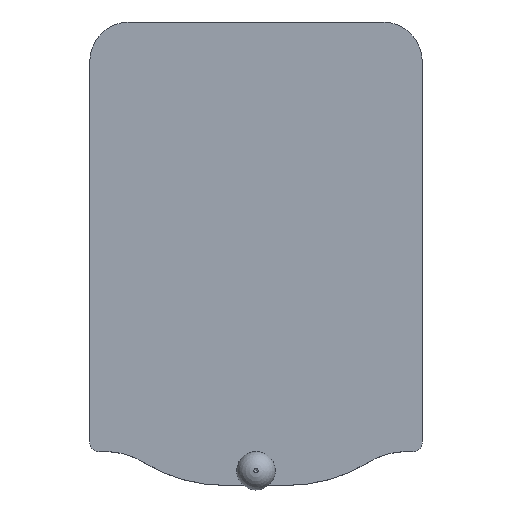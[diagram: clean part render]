
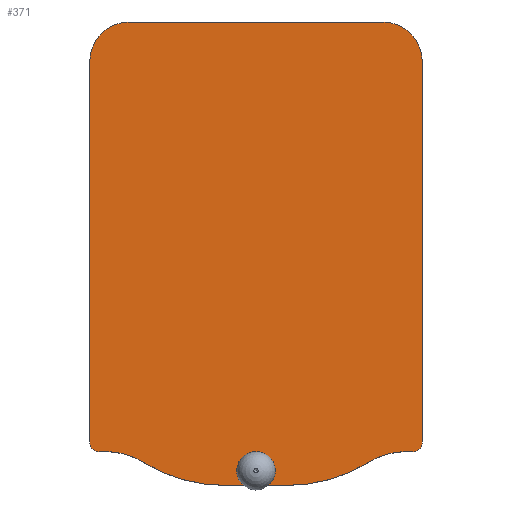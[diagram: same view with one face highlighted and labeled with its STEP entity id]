
A CAD part, top view. The second image highlights one B-rep face of the part: STEP entity #371.
In plain terms, the highlighted planar face has unit normal (0, 0, 1).
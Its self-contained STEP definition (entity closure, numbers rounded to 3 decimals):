
#371=ADVANCED_FACE('',(#452,#453),#426,.T.);
#426=PLANE('',#1270);
#452=FACE_BOUND('',#460,.T.);
#453=FACE_BOUND('',#461,.T.);
#460=EDGE_LOOP('',(#686,#687,#688,#689,#690,#691,#692,#693,#694,#695,#696,
#697,#698,#699));
#461=EDGE_LOOP('',(#700));
#518=LINE('',#1681,#602);
#519=LINE('',#1687,#603);
#520=LINE('',#1691,#604);
#521=LINE('',#1695,#605);
#522=LINE('',#1699,#606);
#523=LINE('',#1703,#607);
#602=VECTOR('',#1375,1.);
#603=VECTOR('',#1380,1.);
#604=VECTOR('',#1383,1.);
#605=VECTOR('',#1386,1.);
#606=VECTOR('',#1389,1.);
#607=VECTOR('',#1392,1.);
#686=ORIENTED_EDGE('',*,*,#1063,.F.);
#687=ORIENTED_EDGE('',*,*,#1064,.F.);
#688=ORIENTED_EDGE('',*,*,#1065,.T.);
#689=ORIENTED_EDGE('',*,*,#1066,.T.);
#690=ORIENTED_EDGE('',*,*,#1067,.F.);
#691=ORIENTED_EDGE('',*,*,#1068,.T.);
#692=ORIENTED_EDGE('',*,*,#1069,.F.);
#693=ORIENTED_EDGE('',*,*,#1070,.T.);
#694=ORIENTED_EDGE('',*,*,#1071,.F.);
#695=ORIENTED_EDGE('',*,*,#1072,.T.);
#696=ORIENTED_EDGE('',*,*,#1073,.F.);
#697=ORIENTED_EDGE('',*,*,#1074,.T.);
#698=ORIENTED_EDGE('',*,*,#1075,.T.);
#699=ORIENTED_EDGE('',*,*,#1076,.T.);
#700=ORIENTED_EDGE('',*,*,#1077,.T.);
#970=VERTEX_POINT('',#1679);
#971=VERTEX_POINT('',#1680);
#972=VERTEX_POINT('',#1682);
#973=VERTEX_POINT('',#1684);
#974=VERTEX_POINT('',#1686);
#975=VERTEX_POINT('',#1688);
#976=VERTEX_POINT('',#1690);
#977=VERTEX_POINT('',#1692);
#978=VERTEX_POINT('',#1694);
#979=VERTEX_POINT('',#1696);
#980=VERTEX_POINT('',#1698);
#981=VERTEX_POINT('',#1700);
#982=VERTEX_POINT('',#1702);
#983=VERTEX_POINT('',#1704);
#984=VERTEX_POINT('',#1707);
#1063=EDGE_CURVE('',#970,#971,#1205,.T.);
#1064=EDGE_CURVE('',#972,#970,#518,.T.);
#1065=EDGE_CURVE('',#972,#973,#1206,.T.);
#1066=EDGE_CURVE('',#973,#974,#1207,.T.);
#1067=EDGE_CURVE('',#975,#974,#519,.T.);
#1068=EDGE_CURVE('',#975,#976,#1208,.T.);
#1069=EDGE_CURVE('',#977,#976,#520,.T.);
#1070=EDGE_CURVE('',#977,#978,#1209,.T.);
#1071=EDGE_CURVE('',#979,#978,#521,.T.);
#1072=EDGE_CURVE('',#979,#980,#1210,.T.);
#1073=EDGE_CURVE('',#981,#980,#522,.T.);
#1074=EDGE_CURVE('',#981,#982,#1211,.T.);
#1075=EDGE_CURVE('',#982,#983,#523,.T.);
#1076=EDGE_CURVE('',#983,#971,#1212,.T.);
#1077=EDGE_CURVE('',#984,#984,#1213,.T.);
#1205=CIRCLE('',#1261,32.071);
#1206=CIRCLE('',#1262,32.071);
#1207=CIRCLE('',#1263,15.);
#1208=CIRCLE('',#1264,2.);
#1209=CIRCLE('',#1265,8.2);
#1210=CIRCLE('',#1266,8.2);
#1211=CIRCLE('',#1267,2.);
#1212=CIRCLE('',#1268,15.);
#1213=CIRCLE('',#1269,2.8);
#1261=AXIS2_PLACEMENT_3D('',#1678,#1373,#1374);
#1262=AXIS2_PLACEMENT_3D('',#1683,#1376,#1377);
#1263=AXIS2_PLACEMENT_3D('',#1685,#1378,#1379);
#1264=AXIS2_PLACEMENT_3D('',#1689,#1381,#1382);
#1265=AXIS2_PLACEMENT_3D('',#1693,#1384,#1385);
#1266=AXIS2_PLACEMENT_3D('',#1697,#1387,#1388);
#1267=AXIS2_PLACEMENT_3D('',#1701,#1390,#1391);
#1268=AXIS2_PLACEMENT_3D('',#1705,#1393,#1394);
#1269=AXIS2_PLACEMENT_3D('',#1706,#1395,#1396);
#1270=AXIS2_PLACEMENT_3D('',#1708,#1397,#1398);
#1373=DIRECTION('',(0.,0.,-1.));
#1374=DIRECTION('',(-1.,0.,0.));
#1375=DIRECTION('',(-1.,0.,0.));
#1376=DIRECTION('',(0.,0.,1.));
#1377=DIRECTION('',(1.,0.,0.));
#1378=DIRECTION('',(0.,0.,-1.));
#1379=DIRECTION('',(1.,0.,0.));
#1380=DIRECTION('',(-1.,0.,0.));
#1381=DIRECTION('',(0.,0.,1.));
#1382=DIRECTION('',(1.,0.,0.));
#1383=DIRECTION('',(0.,-1.,0.));
#1384=DIRECTION('',(0.,0.,1.));
#1385=DIRECTION('',(1.,0.,0.));
#1386=DIRECTION('',(1.,0.,0.));
#1387=DIRECTION('',(0.,0.,1.));
#1388=DIRECTION('',(1.,0.,0.));
#1389=DIRECTION('',(0.,1.,0.));
#1390=DIRECTION('',(0.,0.,1.));
#1391=DIRECTION('',(1.,0.,0.));
#1392=DIRECTION('',(1.,0.,0.));
#1393=DIRECTION('',(0.,0.,-1.));
#1394=DIRECTION('',(1.,0.,0.));
#1395=DIRECTION('',(0.,0.,-1.));
#1396=DIRECTION('',(1.,0.,0.));
#1397=DIRECTION('',(0.,0.,1.));
#1398=DIRECTION('',(1.,0.,0.));
#1678=CARTESIAN_POINT('',(-6.45,0.421,7.25));
#1679=CARTESIAN_POINT('',(-6.45,-31.65,7.25));
#1680=CARTESIAN_POINT('',(-23.278,-26.881,7.25));
#1681=CARTESIAN_POINT('',(0.,-31.65,7.25));
#1682=CARTESIAN_POINT('',(6.45,-31.65,7.25));
#1683=CARTESIAN_POINT('',(6.45,0.421,7.25));
#1684=CARTESIAN_POINT('',(23.278,-26.881,7.25));
#1685=CARTESIAN_POINT('',(31.148,-39.65,7.25));
#1686=CARTESIAN_POINT('',(31.148,-24.65,7.25));
#1687=CARTESIAN_POINT('',(34.45,-24.65,7.25));
#1688=CARTESIAN_POINT('',(32.45,-24.65,7.25));
#1689=CARTESIAN_POINT('',(32.45,-22.65,7.25));
#1690=CARTESIAN_POINT('',(34.45,-22.65,7.25));
#1691=CARTESIAN_POINT('',(34.45,16.35,7.25));
#1692=CARTESIAN_POINT('',(34.45,56.15,7.25));
#1693=CARTESIAN_POINT('',(26.25,56.15,7.25));
#1694=CARTESIAN_POINT('',(26.25,64.35,7.25));
#1695=CARTESIAN_POINT('',(0.,64.35,7.25));
#1696=CARTESIAN_POINT('',(-26.25,64.35,7.25));
#1697=CARTESIAN_POINT('',(-26.25,56.15,7.25));
#1698=CARTESIAN_POINT('',(-34.45,56.15,7.25));
#1699=CARTESIAN_POINT('',(-34.45,16.35,7.25));
#1700=CARTESIAN_POINT('',(-34.45,-22.65,7.25));
#1701=CARTESIAN_POINT('',(-32.45,-22.65,7.25));
#1702=CARTESIAN_POINT('',(-32.45,-24.65,7.25));
#1703=CARTESIAN_POINT('',(-34.45,-24.65,7.25));
#1704=CARTESIAN_POINT('',(-31.148,-24.65,7.25));
#1705=CARTESIAN_POINT('',(-31.148,-39.65,7.25));
#1706=CARTESIAN_POINT('',(0.,-28.65,7.25));
#1707=CARTESIAN_POINT('',(2.8,-28.65,7.25));
#1708=CARTESIAN_POINT('',(0.,16.35,7.25));
